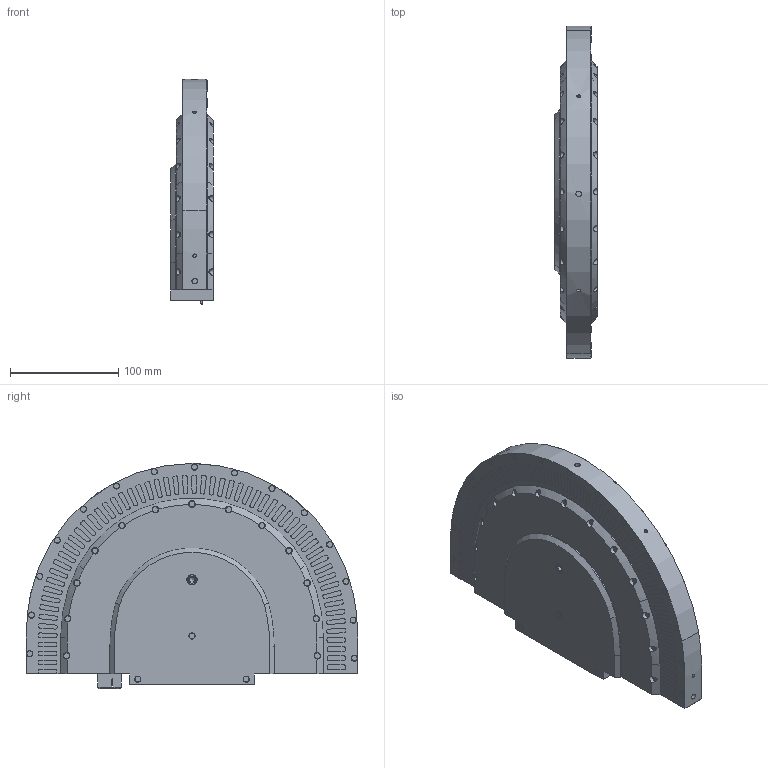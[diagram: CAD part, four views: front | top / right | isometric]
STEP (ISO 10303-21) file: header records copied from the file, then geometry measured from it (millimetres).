
FILE_DESCRIPTION(/* description */ ('AT2050-0500'),/* implementation_level */ '2;1');
FILE_NAME(/* name */ '0000018281_AT2050-0500.stp',/* time_stamp */ '2024-04-26T09:24:17+02:00',/* author */ ('PhilE'),/* organization */ (''),/* preprocessor_version */ 'ST-DEVELOPER v20',/* originating_system */ 'Autodesk Inventor 2024',/* authorisation */ '');
FILE_SCHEMA (('AUTOMOTIVE_DESIGN { 1 0 10303 214 3 1 1 }'));
Length unit declared in the file: millimetre
Products named in the file (1): 0000018281_AT2050-0500
Bounding box: 40.1 x 306.7 x 208 mm (x, y, z)
Volume: 1580908.8 mm3; surface area: 135200.1 mm2
Topology: 1 solids, 1 shells, 526 faces, 1908 edges, 1587 vertices
Faces by surface type: plane 305, cylinder 137, torus 65, cone 17, bspline 2
Full cylindrical faces by diameter (mm): 3.242 x5, 4.134 x3, 4.917 x1, 5 x5, 5.5 x3, 5.7 x61, 6 x26, 9 x1, 9.5 x1
Entity records: 23329 total; most frequent: CARTESIAN_POINT 5263, DIRECTION 3854, ORIENTED_EDGE 3802, EDGE_CURVE 1901, VERTEX_POINT 1587, AXIS2_PLACEMENT_3D 1502, CIRCLE 969, LINE 850
